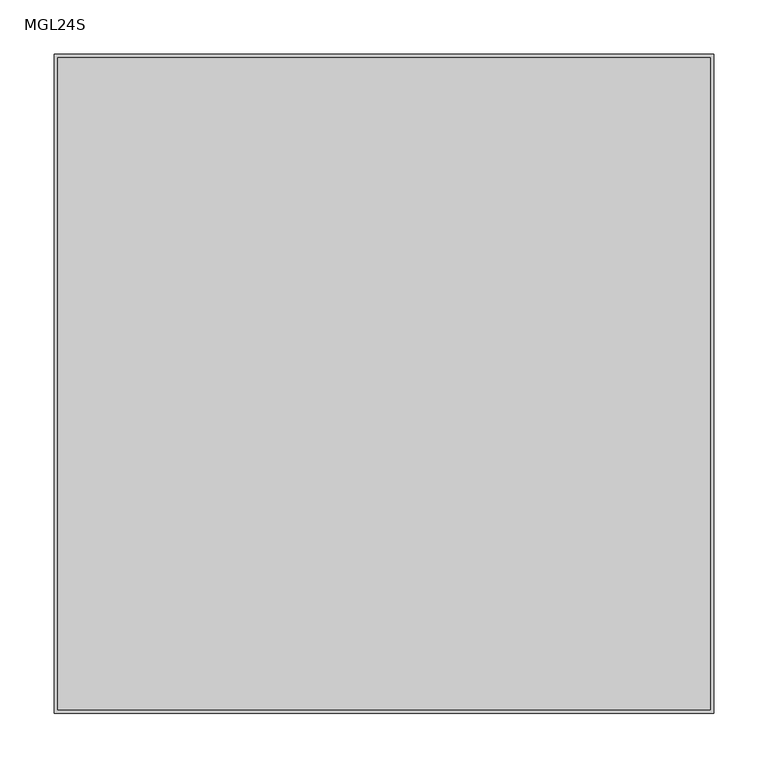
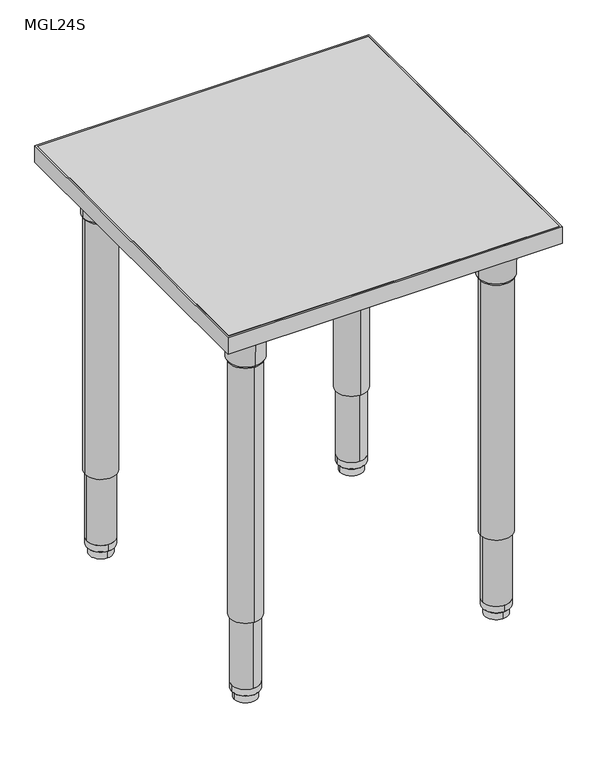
"""IFC4 building model written with IfcOpenShell, lengths in millimetres: furniture geometry, ERG-Mingle-Table-Square : MGL24S."""

from ifc_helpers import new_model, si_unit, point, frame, frame_2d, origin, place, context, project, spatial, polyline, circle_curve, trimmed, segment, composite_curve, outline, extrude, source, transform, mapped, element, save
from ifc_brep_helpers import plane_surface, cylinder_surface, revolved_surface, advanced_brep


def mgl24s_ef257404(model_context):
    return source(origin(), model_context, "Body", "SolidModel", [
        advanced_brep(
        [(198.5646842, -228.6, 650.5933069), (258.6353158, -228.6, 650.5933069), (228.6, -228.6, 650.5933069), (196.456117, -228.6, 654.3580481), (260.743883, -228.6, 654.3580481), (195.5206351, -228.6, 707.7631458), (261.6793649, -228.6, 707.7631458), (192.071083, -228.6, 714.1198315), (265.128917, -228.6, 714.1198315), (192.071083, -228.6, 726.8198315), (265.128917, -228.6, 726.8198315), (228.6, -228.6, 726.8198315)],
        [
            (0, 1, circle_curve(frame((228.6, -228.6, 650.5933069), z_axis=(0.0, 0.0, -1.0), x_axis=(1.0, 0.0, 0.0)), 30.0353158)),
            (1, 2),
            (2, 0),
            (1, 0, circle_curve(frame((228.6, -228.6, 650.5933069), z_axis=(0.0, 0.0, -1.0), x_axis=(1.0, 0.0, 0.0)), 30.0353158)),
            (3, 4, circle_curve(frame((228.6, -228.6, 654.3580481), z_axis=(0.0, 0.0, -1.0), x_axis=(1.0, 0.0, 0.0)), 32.143883)),
            (4, 1),
            (0, 3),
            (4, 3, circle_curve(frame((228.6, -228.6, 654.3580481), z_axis=(0.0, 0.0, -1.0), x_axis=(1.0, 0.0, 0.0)), 32.143883)),
            (5, 6, circle_curve(frame((228.6, -228.6, 707.7631458), z_axis=(0.0, 0.0, -1.0), x_axis=(1.0, 0.0, 0.0)), 33.0793649)),
            (6, 4),
            (3, 5),
            (6, 5, circle_curve(frame((228.6, -228.6, 707.7631458), z_axis=(0.0, 0.0, -1.0), x_axis=(1.0, 0.0, 0.0)), 33.0793649)),
            (7, 8, circle_curve(frame((228.6, -228.6, 714.1198315), z_axis=(0.0, 0.0, -1.0), x_axis=(1.0, 0.0, 0.0)), 36.528917)),
            (8, 6),
            (5, 7),
            (8, 7, circle_curve(frame((228.6, -228.6, 714.1198315), z_axis=(0.0, 0.0, -1.0), x_axis=(1.0, 0.0, 0.0)), 36.528917)),
            (9, 10, circle_curve(frame((228.6, -228.6, 726.8198315), z_axis=(0.0, 0.0, -1.0), x_axis=(1.0, 0.0, 0.0)), 36.528917)),
            (10, 8),
            (7, 9),
            (10, 9, circle_curve(frame((228.6, -228.6, 726.8198315), z_axis=(0.0, 0.0, -1.0), x_axis=(1.0, 0.0, 0.0)), 36.528917)),
            (11, 10),
            (9, 11),
        ],
        [
            plane_surface(frame((228.6, -228.6, 650.5933069), z_axis=(0.0, 0.0, -1.0), x_axis=(1.0, 0.0, 0.0))),
            revolved_surface(polyline([(258.6353158, -228.6, 650.5933069), (260.743883, -228.6, 654.3580481)]), (228.6, -228.6, 726.8198315), (0.0, 0.0, 1.0)),
            revolved_surface(polyline([(260.743883, -228.6, 654.3580481), (261.6793649, -228.6, 707.7631458)]), (228.6, -228.6, 726.8198315), (0.0, 0.0, 1.0)),
            revolved_surface(polyline([(261.6793649, -228.6, 707.7631458), (265.128917, -228.6, 714.1198315)]), (228.6, -228.6, 726.8198315), (0.0, 0.0, 1.0)),
            cylinder_surface(frame((228.6, -228.6, 726.8198315), z_axis=(0.0, 0.0, 1.0), x_axis=(1.0, 0.0, 0.0)), 36.528917),
            plane_surface(frame((228.6, -228.6, 726.8198315), z_axis=(0.0, 0.0, 1.0), x_axis=(1.0, 0.0, 0.0))),
        ],
        [
            (0, [[1, 2, 3]]),
            (0, [[4, -3, -2]]),
            (1, [[5, 6, -1, 7]]),
            (1, [[8, -7, -4, -6]]),
            (2, [[9, 10, -5, 11]]),
            (2, [[12, -11, -8, -10]]),
            (3, [[13, 14, -9, 15]]),
            (3, [[16, -15, -12, -14]]),
            (4, [[17, 18, -13, 19]]),
            (4, [[20, -19, -16, -18]]),
            (5, [[21, -17, 22]]),
            (5, [[-22, -20, -21]]),
        ],
    ),
        extrude(outline(composite_curve([segment(polyline([(274.473768, -146.0223426), (274.473768, -259.7483754)]), True, "CONTINUOUS"), segment(trimmed(circle_curve(frame_2d((258.598768, -259.7483754)), 15.875), [point((274.473768, -259.7483754))], [point((258.598768, -275.6233754))], False, "CARTESIAN"), True, "CONTINUOUS"), segment(polyline([(258.598768, -275.6233754), (144.8864205, -275.6233754)]), True, "CONTINUOUS"), segment(trimmed(circle_curve(frame_2d((144.8864205, -262.9233754)), 12.7), [point((144.8864205, -275.6233754))], [point((132.2491923, -261.6622394))], False, "CARTESIAN"), True, "CONTINUOUS"), segment(trimmed(circle_curve(frame_2d((274.7486077, -275.8830117)), 143.2072406), [point((132.2491923, -261.6622394))], [point((260.5111525, -133.3852622))], False, "CARTESIAN"), True, "CONTINUOUS"), segment(trimmed(circle_curve(frame_2d((261.773768, -146.0223426)), 12.7), [point((260.5111525, -133.3852622))], [point((274.473768, -146.0223426))], False, "CARTESIAN"), True, "CONTINUOUS")], self_intersect=False)), frame((0.0, 0.0, 726.8198315), z_axis=(0.0, 0.0, 1.0), x_axis=(1.0, 0.0, 0.0)), (0.0, 0.0, 1.0), 3.4301685),
        extrude(outline(composite_curve([segment(trimmed(circle_curve(frame_2d((228.6, -228.6)), 28.575), [point((257.175, -228.6))], [point((200.025, -228.6))], False, "CARTESIAN"), True, "CONTINUOUS"), segment(trimmed(circle_curve(frame_2d((228.6, -228.6)), 28.575), [point((200.025, -228.6))], [point((257.175, -228.6))], False, "CARTESIAN"), True, "CONTINUOUS")], self_intersect=False)), frame((0.0, 0.0, 158.3876979), z_axis=(0.0, 0.0, 1.0), x_axis=(1.0, 0.0, 0.0)), (0.0, 0.0, 1.0), 495.4089866),
        extrude(outline(composite_curve([segment(trimmed(circle_curve(frame_2d((228.6, -228.6)), 25.4), [point((254.0, -228.6))], [point((203.2, -228.6))], False, "CARTESIAN"), True, "CONTINUOUS"), segment(trimmed(circle_curve(frame_2d((228.6, -228.6)), 25.4), [point((203.2, -228.6))], [point((254.0, -228.6))], False, "CARTESIAN"), True, "CONTINUOUS")], self_intersect=False)), frame((0.0, 0.0, 28.9580435), z_axis=(0.0, 0.0, 1.0), x_axis=(1.0, 0.0, 0.0)), (0.0, 0.0, 1.0), 176.7049119),
        advanced_brep(
        [(228.6, -203.3649896, 28.9580185), (228.6, -253.8350104, 28.9580185), (228.6, -228.6, 28.9580185), (228.6, -203.500761, 16.3032949), (228.6, -253.699239, 16.3032949), (228.6, -205.0160619, 14.7291007), (228.6, -252.1839381, 14.7291007), (228.6, -207.4591422, 14.7291007), (228.6, -249.7408578, 14.7291007), (228.6, -207.6521336, 0.0), (228.6, -249.5478664, 0.0), (228.6, -228.6, 0.0)],
        [
            (0, 1, circle_curve(frame((228.6, -228.6, 28.9580185), z_axis=(0.0, 0.0, 1.0), x_axis=(0.0, -1.0, 0.0)), 25.2350104)),
            (1, 2),
            (2, 0),
            (1, 0, circle_curve(frame((228.6, -228.6, 28.9580185), z_axis=(0.0, 0.0, 1.0), x_axis=(0.0, -1.0, 0.0)), 25.2350104)),
            (3, 4, circle_curve(frame((228.6, -228.6, 16.3032949), z_axis=(0.0, 0.0, 1.0), x_axis=(0.0, -1.0, 0.0)), 25.099239)),
            (4, 1),
            (0, 3),
            (4, 3, circle_curve(frame((228.6, -228.6, 16.3032949), z_axis=(0.0, 0.0, 1.0), x_axis=(0.0, -1.0, 0.0)), 25.099239)),
            (5, 6, circle_curve(frame((228.6, -228.6, 14.7291007), z_axis=(0.0, 0.0, 1.0), x_axis=(0.0, -1.0, 0.0)), 23.5839381)),
            (6, 4),
            (3, 5),
            (6, 5, circle_curve(frame((228.6, -228.6, 14.7291007), z_axis=(0.0, 0.0, 1.0), x_axis=(0.0, -1.0, 0.0)), 23.5839381)),
            (7, 8, circle_curve(frame((228.6, -228.6, 14.7291007), z_axis=(0.0, 0.0, 1.0), x_axis=(0.0, -1.0, 0.0)), 21.1408578)),
            (8, 6),
            (5, 7),
            (8, 7, circle_curve(frame((228.6, -228.6, 14.7291007), z_axis=(0.0, 0.0, 1.0), x_axis=(0.0, -1.0, 0.0)), 21.1408578)),
            (9, 10, circle_curve(frame((228.6, -228.6, 0.0), z_axis=(0.0, 0.0, 1.0), x_axis=(0.0, -1.0, 0.0)), 20.9478664)),
            (10, 8),
            (7, 9),
            (10, 9, circle_curve(frame((228.6, -228.6, 0.0), z_axis=(0.0, 0.0, 1.0), x_axis=(0.0, -1.0, 0.0)), 20.9478664)),
            (11, 10),
            (9, 11),
        ],
        [
            plane_surface(frame((228.6, -228.6, 28.9580185), z_axis=(0.0, 0.0, 1.0), x_axis=(0.0, -1.0, 0.0))),
            revolved_surface(polyline([(228.6, -253.8350104, 28.9580185), (228.6, -253.699239, 16.3032949)]), (228.6, -228.6, 0.0), (0.0, 0.0, -1.0)),
            revolved_surface(polyline([(228.6, -253.699239, 16.3032949), (228.6, -252.1839381, 14.7291007)]), (228.6, -228.6, 0.0), (0.0, 0.0, -1.0)),
            plane_surface(frame((228.6, -228.6, 14.7291007), z_axis=(0.0, 0.0, -1.0), x_axis=(0.0, -1.0, 0.0))),
            revolved_surface(polyline([(228.6, -249.7408578, 14.7291007), (228.6, -249.5478664, 0.0)]), (228.6, -228.6, 0.0), (0.0, 0.0, -1.0)),
            plane_surface(frame((228.6, -228.6, 0.0), z_axis=(0.0, 0.0, -1.0), x_axis=(0.0, -1.0, 0.0))),
        ],
        [
            (0, [[1, 2, 3]]),
            (0, [[4, -3, -2]]),
            (1, [[5, 6, -1, 7]]),
            (1, [[8, -7, -4, -6]]),
            (2, [[9, 10, -5, 11]]),
            (2, [[12, -11, -8, -10]]),
            (3, [[13, 14, -9, 15]]),
            (3, [[16, -15, -12, -14]]),
            (4, [[17, 18, -13, 19]]),
            (4, [[20, -19, -16, -18]]),
            (5, [[21, -17, 22]]),
            (5, [[-22, -20, -21]]),
        ],
    ),
        advanced_brep(
        [(-228.6, -198.5646842, 650.5933069), (-228.6, -258.6353158, 650.5933069), (-228.6, -228.6, 650.5933069), (-228.6, -196.456117, 654.3580481), (-228.6, -260.743883, 654.3580481), (-228.6, -195.5206351, 707.7631458), (-228.6, -261.6793649, 707.7631458), (-228.6, -192.071083, 714.1198315), (-228.6, -265.128917, 714.1198315), (-228.6, -192.071083, 726.8198315), (-228.6, -265.128917, 726.8198315), (-228.6, -228.6, 726.8198315)],
        [
            (0, 1, circle_curve(frame((-228.6, -228.6, 650.5933069), z_axis=(0.0, 0.0, -1.0), x_axis=(0.0, -1.0, 0.0)), 30.0353158)),
            (1, 2),
            (2, 0),
            (1, 0, circle_curve(frame((-228.6, -228.6, 650.5933069), z_axis=(0.0, 0.0, -1.0), x_axis=(0.0, -1.0, 0.0)), 30.0353158)),
            (3, 4, circle_curve(frame((-228.6, -228.6, 654.3580481), z_axis=(0.0, 0.0, -1.0), x_axis=(0.0, -1.0, 0.0)), 32.143883)),
            (4, 1),
            (0, 3),
            (4, 3, circle_curve(frame((-228.6, -228.6, 654.3580481), z_axis=(0.0, 0.0, -1.0), x_axis=(0.0, -1.0, 0.0)), 32.143883)),
            (5, 6, circle_curve(frame((-228.6, -228.6, 707.7631458), z_axis=(0.0, 0.0, -1.0), x_axis=(0.0, -1.0, 0.0)), 33.0793649)),
            (6, 4),
            (3, 5),
            (6, 5, circle_curve(frame((-228.6, -228.6, 707.7631458), z_axis=(0.0, 0.0, -1.0), x_axis=(0.0, -1.0, 0.0)), 33.0793649)),
            (7, 8, circle_curve(frame((-228.6, -228.6, 714.1198315), z_axis=(0.0, 0.0, -1.0), x_axis=(0.0, -1.0, 0.0)), 36.528917)),
            (8, 6),
            (5, 7),
            (8, 7, circle_curve(frame((-228.6, -228.6, 714.1198315), z_axis=(0.0, 0.0, -1.0), x_axis=(0.0, -1.0, 0.0)), 36.528917)),
            (9, 10, circle_curve(frame((-228.6, -228.6, 726.8198315), z_axis=(0.0, 0.0, -1.0), x_axis=(0.0, -1.0, 0.0)), 36.528917)),
            (10, 8),
            (7, 9),
            (10, 9, circle_curve(frame((-228.6, -228.6, 726.8198315), z_axis=(0.0, 0.0, -1.0), x_axis=(0.0, -1.0, 0.0)), 36.528917)),
            (11, 10),
            (9, 11),
        ],
        [
            plane_surface(frame((-228.6, -228.6, 650.5933069), z_axis=(0.0, 0.0, -1.0), x_axis=(0.0, -1.0, 0.0))),
            revolved_surface(polyline([(-228.6, -258.6353158, 650.5933069), (-228.6, -260.743883, 654.3580481)]), (-228.6, -228.6, 726.8198315), (0.0, 0.0, 1.0)),
            revolved_surface(polyline([(-228.6, -260.743883, 654.3580481), (-228.6, -261.6793649, 707.7631458)]), (-228.6, -228.6, 726.8198315), (0.0, 0.0, 1.0)),
            revolved_surface(polyline([(-228.6, -261.6793649, 707.7631458), (-228.6, -265.128917, 714.1198315)]), (-228.6, -228.6, 726.8198315), (0.0, 0.0, 1.0)),
            cylinder_surface(frame((-228.6, -228.6, 726.8198315), z_axis=(0.0, 0.0, 1.0), x_axis=(0.0, -1.0, 0.0)), 36.528917),
            plane_surface(frame((-228.6, -228.6, 726.8198315), z_axis=(0.0, 0.0, 1.0), x_axis=(0.0, -1.0, 0.0))),
        ],
        [
            (0, [[1, 2, 3]]),
            (0, [[4, -3, -2]]),
            (1, [[5, 6, -1, 7]]),
            (1, [[8, -7, -4, -6]]),
            (2, [[9, 10, -5, 11]]),
            (2, [[12, -11, -8, -10]]),
            (3, [[13, 14, -9, 15]]),
            (3, [[16, -15, -12, -14]]),
            (4, [[17, 18, -13, 19]]),
            (4, [[20, -19, -16, -18]]),
            (5, [[21, -17, 22]]),
            (5, [[-22, -20, -21]]),
        ],
    ),
        extrude(outline(composite_curve([segment(polyline([(-146.0223426, -274.473768), (-259.7483754, -274.473768)]), True, "CONTINUOUS"), segment(trimmed(circle_curve(frame_2d((-259.7483754, -258.598768)), 15.875), [point((-259.7483754, -274.473768))], [point((-275.6233754, -258.598768))], False, "CARTESIAN"), True, "CONTINUOUS"), segment(polyline([(-275.6233754, -258.598768), (-275.6233754, -144.8864205)]), True, "CONTINUOUS"), segment(trimmed(circle_curve(frame_2d((-262.9233754, -144.8864205)), 12.7), [point((-275.6233754, -144.8864205))], [point((-261.6622394, -132.2491923))], False, "CARTESIAN"), True, "CONTINUOUS"), segment(trimmed(circle_curve(frame_2d((-275.8830117, -274.7486077)), 143.2072406), [point((-261.6622394, -132.2491923))], [point((-133.3852622, -260.5111525))], False, "CARTESIAN"), True, "CONTINUOUS"), segment(trimmed(circle_curve(frame_2d((-146.0223426, -261.773768)), 12.7), [point((-133.3852622, -260.5111525))], [point((-146.0223426, -274.473768))], False, "CARTESIAN"), True, "CONTINUOUS")], self_intersect=False)), frame((0.0, 0.0, 726.8198315), z_axis=(0.0, 0.0, 1.0), x_axis=(1.0, 0.0, 0.0)), (0.0, 0.0, 1.0), 3.4301685),
        extrude(outline(composite_curve([segment(trimmed(circle_curve(frame_2d((-228.6, -228.6)), 28.575), [point((-228.6, -257.175))], [point((-228.6, -200.025))], False, "CARTESIAN"), True, "CONTINUOUS"), segment(trimmed(circle_curve(frame_2d((-228.6, -228.6)), 28.575), [point((-228.6, -200.025))], [point((-228.6, -257.175))], False, "CARTESIAN"), True, "CONTINUOUS")], self_intersect=False)), frame((0.0, 0.0, 158.3876979), z_axis=(0.0, 0.0, 1.0), x_axis=(1.0, 0.0, 0.0)), (0.0, 0.0, 1.0), 495.4089866),
        extrude(outline(composite_curve([segment(trimmed(circle_curve(frame_2d((-228.6, -228.6)), 25.4), [point((-228.6, -254.0))], [point((-228.6, -203.2))], False, "CARTESIAN"), True, "CONTINUOUS"), segment(trimmed(circle_curve(frame_2d((-228.6, -228.6)), 25.4), [point((-228.6, -203.2))], [point((-228.6, -254.0))], False, "CARTESIAN"), True, "CONTINUOUS")], self_intersect=False)), frame((0.0, 0.0, 28.9580435), z_axis=(0.0, 0.0, 1.0), x_axis=(1.0, 0.0, 0.0)), (0.0, 0.0, 1.0), 176.7049119),
        advanced_brep(
        [(-203.3649896, -228.6, 28.9580185), (-253.8350104, -228.6, 28.9580185), (-228.6, -228.6, 28.9580185), (-203.500761, -228.6, 16.3032949), (-253.699239, -228.6, 16.3032949), (-205.0160619, -228.6, 14.7291007), (-252.1839381, -228.6, 14.7291007), (-207.4591422, -228.6, 14.7291007), (-249.7408578, -228.6, 14.7291007), (-207.6521336, -228.6, 0.0), (-249.5478664, -228.6, 0.0), (-228.6, -228.6, 0.0)],
        [
            (0, 1, circle_curve(frame((-228.6, -228.6, 28.9580185), z_axis=(0.0, 0.0, 1.0), x_axis=(-1.0, 0.0, 0.0)), 25.2350104)),
            (1, 2),
            (2, 0),
            (1, 0, circle_curve(frame((-228.6, -228.6, 28.9580185), z_axis=(0.0, 0.0, 1.0), x_axis=(-1.0, 0.0, 0.0)), 25.2350104)),
            (3, 4, circle_curve(frame((-228.6, -228.6, 16.3032949), z_axis=(0.0, 0.0, 1.0), x_axis=(-1.0, 0.0, 0.0)), 25.099239)),
            (4, 1),
            (0, 3),
            (4, 3, circle_curve(frame((-228.6, -228.6, 16.3032949), z_axis=(0.0, 0.0, 1.0), x_axis=(-1.0, 0.0, 0.0)), 25.099239)),
            (5, 6, circle_curve(frame((-228.6, -228.6, 14.7291007), z_axis=(0.0, 0.0, 1.0), x_axis=(-1.0, 0.0, 0.0)), 23.5839381)),
            (6, 4),
            (3, 5),
            (6, 5, circle_curve(frame((-228.6, -228.6, 14.7291007), z_axis=(0.0, 0.0, 1.0), x_axis=(-1.0, 0.0, 0.0)), 23.5839381)),
            (7, 8, circle_curve(frame((-228.6, -228.6, 14.7291007), z_axis=(0.0, 0.0, 1.0), x_axis=(-1.0, 0.0, 0.0)), 21.1408578)),
            (8, 6),
            (5, 7),
            (8, 7, circle_curve(frame((-228.6, -228.6, 14.7291007), z_axis=(0.0, 0.0, 1.0), x_axis=(-1.0, 0.0, 0.0)), 21.1408578)),
            (9, 10, circle_curve(frame((-228.6, -228.6, 0.0), z_axis=(0.0, 0.0, 1.0), x_axis=(-1.0, 0.0, 0.0)), 20.9478664)),
            (10, 8),
            (7, 9),
            (10, 9, circle_curve(frame((-228.6, -228.6, 0.0), z_axis=(0.0, 0.0, 1.0), x_axis=(-1.0, 0.0, 0.0)), 20.9478664)),
            (11, 10),
            (9, 11),
        ],
        [
            plane_surface(frame((-228.6, -228.6, 28.9580185), z_axis=(0.0, 0.0, 1.0), x_axis=(-1.0, 0.0, 0.0))),
            revolved_surface(polyline([(-253.8350104, -228.6, 28.9580185), (-253.699239, -228.6, 16.3032949)]), (-228.6, -228.6, 0.0), (0.0, 0.0, -1.0)),
            revolved_surface(polyline([(-253.699239, -228.6, 16.3032949), (-252.1839381, -228.6, 14.7291007)]), (-228.6, -228.6, 0.0), (0.0, 0.0, -1.0)),
            plane_surface(frame((-228.6, -228.6, 14.7291007), z_axis=(0.0, 0.0, -1.0), x_axis=(-1.0, 0.0, 0.0))),
            revolved_surface(polyline([(-249.7408578, -228.6, 14.7291007), (-249.5478664, -228.6, 0.0)]), (-228.6, -228.6, 0.0), (0.0, 0.0, -1.0)),
            plane_surface(frame((-228.6, -228.6, 0.0), z_axis=(0.0, 0.0, -1.0), x_axis=(-1.0, 0.0, 0.0))),
        ],
        [
            (0, [[1, 2, 3]]),
            (0, [[4, -3, -2]]),
            (1, [[5, 6, -1, 7]]),
            (1, [[8, -7, -4, -6]]),
            (2, [[9, 10, -5, 11]]),
            (2, [[12, -11, -8, -10]]),
            (3, [[13, 14, -9, 15]]),
            (3, [[16, -15, -12, -14]]),
            (4, [[17, 18, -13, 19]]),
            (4, [[20, -19, -16, -18]]),
            (5, [[21, -17, 22]]),
            (5, [[-22, -20, -21]]),
        ],
    ),
        advanced_brep(
        [(228.6, 198.5646842, 650.5933069), (228.6, 258.6353158, 650.5933069), (228.6, 228.6, 650.5933069), (228.6, 196.456117, 654.3580481), (228.6, 260.743883, 654.3580481), (228.6, 195.5206351, 707.7631458), (228.6, 261.6793649, 707.7631458), (228.6, 192.071083, 714.1198315), (228.6, 265.128917, 714.1198315), (228.6, 192.071083, 726.8198315), (228.6, 265.128917, 726.8198315), (228.6, 228.6, 726.8198315)],
        [
            (0, 1, circle_curve(frame((228.6, 228.6, 650.5933069), z_axis=(0.0, 0.0, -1.0), x_axis=(0.0, 1.0, 0.0)), 30.0353158)),
            (1, 2),
            (2, 0),
            (1, 0, circle_curve(frame((228.6, 228.6, 650.5933069), z_axis=(0.0, 0.0, -1.0), x_axis=(0.0, 1.0, 0.0)), 30.0353158)),
            (3, 4, circle_curve(frame((228.6, 228.6, 654.3580481), z_axis=(0.0, 0.0, -1.0), x_axis=(0.0, 1.0, 0.0)), 32.143883)),
            (4, 1),
            (0, 3),
            (4, 3, circle_curve(frame((228.6, 228.6, 654.3580481), z_axis=(0.0, 0.0, -1.0), x_axis=(0.0, 1.0, 0.0)), 32.143883)),
            (5, 6, circle_curve(frame((228.6, 228.6, 707.7631458), z_axis=(0.0, 0.0, -1.0), x_axis=(0.0, 1.0, 0.0)), 33.0793649)),
            (6, 4),
            (3, 5),
            (6, 5, circle_curve(frame((228.6, 228.6, 707.7631458), z_axis=(0.0, 0.0, -1.0), x_axis=(0.0, 1.0, 0.0)), 33.0793649)),
            (7, 8, circle_curve(frame((228.6, 228.6, 714.1198315), z_axis=(0.0, 0.0, -1.0), x_axis=(0.0, 1.0, 0.0)), 36.528917)),
            (8, 6),
            (5, 7),
            (8, 7, circle_curve(frame((228.6, 228.6, 714.1198315), z_axis=(0.0, 0.0, -1.0), x_axis=(0.0, 1.0, 0.0)), 36.528917)),
            (9, 10, circle_curve(frame((228.6, 228.6, 726.8198315), z_axis=(0.0, 0.0, -1.0), x_axis=(0.0, 1.0, 0.0)), 36.528917)),
            (10, 8),
            (7, 9),
            (10, 9, circle_curve(frame((228.6, 228.6, 726.8198315), z_axis=(0.0, 0.0, -1.0), x_axis=(0.0, 1.0, 0.0)), 36.528917)),
            (11, 10),
            (9, 11),
        ],
        [
            plane_surface(frame((228.6, 228.6, 650.5933069), z_axis=(0.0, 0.0, -1.0), x_axis=(0.0, 1.0, 0.0))),
            revolved_surface(polyline([(228.6, 258.6353158, 650.5933069), (228.6, 260.743883, 654.3580481)]), (228.6, 228.6, 726.8198315), (0.0, 0.0, 1.0)),
            revolved_surface(polyline([(228.6, 260.743883, 654.3580481), (228.6, 261.6793649, 707.7631458)]), (228.6, 228.6, 726.8198315), (0.0, 0.0, 1.0)),
            revolved_surface(polyline([(228.6, 261.6793649, 707.7631458), (228.6, 265.128917, 714.1198315)]), (228.6, 228.6, 726.8198315), (0.0, 0.0, 1.0)),
            cylinder_surface(frame((228.6, 228.6, 726.8198315), z_axis=(0.0, 0.0, 1.0), x_axis=(0.0, 1.0, 0.0)), 36.528917),
            plane_surface(frame((228.6, 228.6, 726.8198315), z_axis=(0.0, 0.0, 1.0), x_axis=(0.0, 1.0, 0.0))),
        ],
        [
            (0, [[1, 2, 3]]),
            (0, [[4, -3, -2]]),
            (1, [[5, 6, -1, 7]]),
            (1, [[8, -7, -4, -6]]),
            (2, [[9, 10, -5, 11]]),
            (2, [[12, -11, -8, -10]]),
            (3, [[13, 14, -9, 15]]),
            (3, [[16, -15, -12, -14]]),
            (4, [[17, 18, -13, 19]]),
            (4, [[20, -19, -16, -18]]),
            (5, [[21, -17, 22]]),
            (5, [[-22, -20, -21]]),
        ],
    ),
        extrude(outline(composite_curve([segment(polyline([(146.0223426, 274.473768), (259.7483754, 274.473768)]), True, "CONTINUOUS"), segment(trimmed(circle_curve(frame_2d((259.7483754, 258.598768)), 15.875), [point((259.7483754, 274.473768))], [point((275.6233754, 258.598768))], False, "CARTESIAN"), True, "CONTINUOUS"), segment(polyline([(275.6233754, 258.598768), (275.6233754, 144.8864205)]), True, "CONTINUOUS"), segment(trimmed(circle_curve(frame_2d((262.9233754, 144.8864205)), 12.7), [point((275.6233754, 144.8864205))], [point((261.6622394, 132.2491923))], False, "CARTESIAN"), True, "CONTINUOUS"), segment(trimmed(circle_curve(frame_2d((275.8830117, 274.7486077)), 143.2072406), [point((261.6622394, 132.2491923))], [point((133.3852622, 260.5111525))], False, "CARTESIAN"), True, "CONTINUOUS"), segment(trimmed(circle_curve(frame_2d((146.0223426, 261.773768)), 12.7), [point((133.3852622, 260.5111525))], [point((146.0223426, 274.473768))], False, "CARTESIAN"), True, "CONTINUOUS")], self_intersect=False)), frame((0.0, 0.0, 726.8198315), z_axis=(0.0, 0.0, 1.0), x_axis=(1.0, 0.0, 0.0)), (0.0, 0.0, 1.0), 3.4301685),
        extrude(outline(composite_curve([segment(trimmed(circle_curve(frame_2d((228.6, 228.6)), 28.575), [point((228.6, 257.175))], [point((228.6, 200.025))], False, "CARTESIAN"), True, "CONTINUOUS"), segment(trimmed(circle_curve(frame_2d((228.6, 228.6)), 28.575), [point((228.6, 200.025))], [point((228.6, 257.175))], False, "CARTESIAN"), True, "CONTINUOUS")], self_intersect=False)), frame((0.0, 0.0, 158.3876979), z_axis=(0.0, 0.0, 1.0), x_axis=(1.0, 0.0, 0.0)), (0.0, 0.0, 1.0), 495.4089866),
        extrude(outline(composite_curve([segment(trimmed(circle_curve(frame_2d((228.6, 228.6)), 25.4), [point((228.6, 254.0))], [point((228.6, 203.2))], False, "CARTESIAN"), True, "CONTINUOUS"), segment(trimmed(circle_curve(frame_2d((228.6, 228.6)), 25.4), [point((228.6, 203.2))], [point((228.6, 254.0))], False, "CARTESIAN"), True, "CONTINUOUS")], self_intersect=False)), frame((0.0, 0.0, 28.9580435), z_axis=(0.0, 0.0, 1.0), x_axis=(1.0, 0.0, 0.0)), (0.0, 0.0, 1.0), 176.7049119),
        advanced_brep(
        [(203.3649896, 228.6, 28.9580185), (253.8350104, 228.6, 28.9580185), (228.6, 228.6, 28.9580185), (203.500761, 228.6, 16.3032949), (253.699239, 228.6, 16.3032949), (205.0160619, 228.6, 14.7291007), (252.1839381, 228.6, 14.7291007), (207.4591422, 228.6, 14.7291007), (249.7408578, 228.6, 14.7291007), (207.6521336, 228.6, 0.0), (249.5478664, 228.6, 0.0), (228.6, 228.6, 0.0)],
        [
            (0, 1, circle_curve(frame((228.6, 228.6, 28.9580185), z_axis=(0.0, 0.0, 1.0), x_axis=(1.0, 0.0, 0.0)), 25.2350104)),
            (1, 2),
            (2, 0),
            (1, 0, circle_curve(frame((228.6, 228.6, 28.9580185), z_axis=(0.0, 0.0, 1.0), x_axis=(1.0, 0.0, 0.0)), 25.2350104)),
            (3, 4, circle_curve(frame((228.6, 228.6, 16.3032949), z_axis=(0.0, 0.0, 1.0), x_axis=(1.0, 0.0, 0.0)), 25.099239)),
            (4, 1),
            (0, 3),
            (4, 3, circle_curve(frame((228.6, 228.6, 16.3032949), z_axis=(0.0, 0.0, 1.0), x_axis=(1.0, 0.0, 0.0)), 25.099239)),
            (5, 6, circle_curve(frame((228.6, 228.6, 14.7291007), z_axis=(0.0, 0.0, 1.0), x_axis=(1.0, 0.0, 0.0)), 23.5839381)),
            (6, 4),
            (3, 5),
            (6, 5, circle_curve(frame((228.6, 228.6, 14.7291007), z_axis=(0.0, 0.0, 1.0), x_axis=(1.0, 0.0, 0.0)), 23.5839381)),
            (7, 8, circle_curve(frame((228.6, 228.6, 14.7291007), z_axis=(0.0, 0.0, 1.0), x_axis=(1.0, 0.0, 0.0)), 21.1408578)),
            (8, 6),
            (5, 7),
            (8, 7, circle_curve(frame((228.6, 228.6, 14.7291007), z_axis=(0.0, 0.0, 1.0), x_axis=(1.0, 0.0, 0.0)), 21.1408578)),
            (9, 10, circle_curve(frame((228.6, 228.6, 0.0), z_axis=(0.0, 0.0, 1.0), x_axis=(1.0, 0.0, 0.0)), 20.9478664)),
            (10, 8),
            (7, 9),
            (10, 9, circle_curve(frame((228.6, 228.6, 0.0), z_axis=(0.0, 0.0, 1.0), x_axis=(1.0, 0.0, 0.0)), 20.9478664)),
            (11, 10),
            (9, 11),
        ],
        [
            plane_surface(frame((228.6, 228.6, 28.9580185), z_axis=(0.0, 0.0, 1.0), x_axis=(1.0, 0.0, 0.0))),
            revolved_surface(polyline([(253.8350104, 228.6, 28.9580185), (253.699239, 228.6, 16.3032949)]), (228.6, 228.6, 0.0), (0.0, 0.0, -1.0)),
            revolved_surface(polyline([(253.699239, 228.6, 16.3032949), (252.1839381, 228.6, 14.7291007)]), (228.6, 228.6, 0.0), (0.0, 0.0, -1.0)),
            plane_surface(frame((228.6, 228.6, 14.7291007), z_axis=(0.0, 0.0, -1.0), x_axis=(1.0, 0.0, 0.0))),
            revolved_surface(polyline([(249.7408578, 228.6, 14.7291007), (249.5478664, 228.6, 0.0)]), (228.6, 228.6, 0.0), (0.0, 0.0, -1.0)),
            plane_surface(frame((228.6, 228.6, 0.0), z_axis=(0.0, 0.0, -1.0), x_axis=(1.0, 0.0, 0.0))),
        ],
        [
            (0, [[1, 2, 3]]),
            (0, [[4, -3, -2]]),
            (1, [[5, 6, -1, 7]]),
            (1, [[8, -7, -4, -6]]),
            (2, [[9, 10, -5, 11]]),
            (2, [[12, -11, -8, -10]]),
            (3, [[13, 14, -9, 15]]),
            (3, [[16, -15, -12, -14]]),
            (4, [[17, 18, -13, 19]]),
            (4, [[20, -19, -16, -18]]),
            (5, [[21, -17, 22]]),
            (5, [[-22, -20, -21]]),
        ],
    ),
        advanced_brep(
        [(-198.5646842, 228.6, 650.5933069), (-258.6353158, 228.6, 650.5933069), (-228.6, 228.6, 650.5933069), (-196.456117, 228.6, 654.3580481), (-260.743883, 228.6, 654.3580481), (-195.5206351, 228.6, 707.7631458), (-261.6793649, 228.6, 707.7631458), (-192.071083, 228.6, 714.1198315), (-265.128917, 228.6, 714.1198315), (-192.071083, 228.6, 726.8198315), (-265.128917, 228.6, 726.8198315), (-228.6, 228.6, 726.8198315)],
        [
            (0, 1, circle_curve(frame((-228.6, 228.6, 650.5933069), z_axis=(0.0, 0.0, -1.0), x_axis=(-1.0, 0.0, 0.0)), 30.0353158)),
            (1, 2),
            (2, 0),
            (1, 0, circle_curve(frame((-228.6, 228.6, 650.5933069), z_axis=(0.0, 0.0, -1.0), x_axis=(-1.0, 0.0, 0.0)), 30.0353158)),
            (3, 4, circle_curve(frame((-228.6, 228.6, 654.3580481), z_axis=(0.0, 0.0, -1.0), x_axis=(-1.0, 0.0, 0.0)), 32.143883)),
            (4, 1),
            (0, 3),
            (4, 3, circle_curve(frame((-228.6, 228.6, 654.3580481), z_axis=(0.0, 0.0, -1.0), x_axis=(-1.0, 0.0, 0.0)), 32.143883)),
            (5, 6, circle_curve(frame((-228.6, 228.6, 707.7631458), z_axis=(0.0, 0.0, -1.0), x_axis=(-1.0, 0.0, 0.0)), 33.0793649)),
            (6, 4),
            (3, 5),
            (6, 5, circle_curve(frame((-228.6, 228.6, 707.7631458), z_axis=(0.0, 0.0, -1.0), x_axis=(-1.0, 0.0, 0.0)), 33.0793649)),
            (7, 8, circle_curve(frame((-228.6, 228.6, 714.1198315), z_axis=(0.0, 0.0, -1.0), x_axis=(-1.0, 0.0, 0.0)), 36.528917)),
            (8, 6),
            (5, 7),
            (8, 7, circle_curve(frame((-228.6, 228.6, 714.1198315), z_axis=(0.0, 0.0, -1.0), x_axis=(-1.0, 0.0, 0.0)), 36.528917)),
            (9, 10, circle_curve(frame((-228.6, 228.6, 726.8198315), z_axis=(0.0, 0.0, -1.0), x_axis=(-1.0, 0.0, 0.0)), 36.528917)),
            (10, 8),
            (7, 9),
            (10, 9, circle_curve(frame((-228.6, 228.6, 726.8198315), z_axis=(0.0, 0.0, -1.0), x_axis=(-1.0, 0.0, 0.0)), 36.528917)),
            (11, 10),
            (9, 11),
        ],
        [
            plane_surface(frame((-228.6, 228.6, 650.5933069), z_axis=(0.0, 0.0, -1.0), x_axis=(-1.0, 0.0, 0.0))),
            revolved_surface(polyline([(-258.6353158, 228.6, 650.5933069), (-260.743883, 228.6, 654.3580481)]), (-228.6, 228.6, 726.8198315), (0.0, 0.0, 1.0)),
            revolved_surface(polyline([(-260.743883, 228.6, 654.3580481), (-261.6793649, 228.6, 707.7631458)]), (-228.6, 228.6, 726.8198315), (0.0, 0.0, 1.0)),
            revolved_surface(polyline([(-261.6793649, 228.6, 707.7631458), (-265.128917, 228.6, 714.1198315)]), (-228.6, 228.6, 726.8198315), (0.0, 0.0, 1.0)),
            cylinder_surface(frame((-228.6, 228.6, 726.8198315), z_axis=(0.0, 0.0, 1.0), x_axis=(-1.0, 0.0, 0.0)), 36.528917),
            plane_surface(frame((-228.6, 228.6, 726.8198315), z_axis=(0.0, 0.0, 1.0), x_axis=(-1.0, 0.0, 0.0))),
        ],
        [
            (0, [[1, 2, 3]]),
            (0, [[4, -3, -2]]),
            (1, [[5, 6, -1, 7]]),
            (1, [[8, -7, -4, -6]]),
            (2, [[9, 10, -5, 11]]),
            (2, [[12, -11, -8, -10]]),
            (3, [[13, 14, -9, 15]]),
            (3, [[16, -15, -12, -14]]),
            (4, [[17, 18, -13, 19]]),
            (4, [[20, -19, -16, -18]]),
            (5, [[21, -17, 22]]),
            (5, [[-22, -20, -21]]),
        ],
    ),
        extrude(outline(composite_curve([segment(polyline([(-274.473768, 146.0223426), (-274.473768, 259.7483754)]), True, "CONTINUOUS"), segment(trimmed(circle_curve(frame_2d((-258.598768, 259.7483754)), 15.875), [point((-274.473768, 259.7483754))], [point((-258.598768, 275.6233754))], False, "CARTESIAN"), True, "CONTINUOUS"), segment(polyline([(-258.598768, 275.6233754), (-144.8864205, 275.6233754)]), True, "CONTINUOUS"), segment(trimmed(circle_curve(frame_2d((-144.8864205, 262.9233754)), 12.7), [point((-144.8864205, 275.6233754))], [point((-132.2491923, 261.6622394))], False, "CARTESIAN"), True, "CONTINUOUS"), segment(trimmed(circle_curve(frame_2d((-274.7486077, 275.8830117)), 143.2072406), [point((-132.2491923, 261.6622394))], [point((-260.5111525, 133.3852622))], False, "CARTESIAN"), True, "CONTINUOUS"), segment(trimmed(circle_curve(frame_2d((-261.773768, 146.0223426)), 12.7), [point((-260.5111525, 133.3852622))], [point((-274.473768, 146.0223426))], False, "CARTESIAN"), True, "CONTINUOUS")], self_intersect=False)), frame((0.0, 0.0, 726.8198315), z_axis=(0.0, 0.0, 1.0), x_axis=(1.0, 0.0, 0.0)), (0.0, 0.0, 1.0), 3.4301685),
        extrude(outline(composite_curve([segment(trimmed(circle_curve(frame_2d((-228.6, 228.6)), 28.575), [point((-257.175, 228.6))], [point((-200.025, 228.6))], False, "CARTESIAN"), True, "CONTINUOUS"), segment(trimmed(circle_curve(frame_2d((-228.6, 228.6)), 28.575), [point((-200.025, 228.6))], [point((-257.175, 228.6))], False, "CARTESIAN"), True, "CONTINUOUS")], self_intersect=False)), frame((0.0, 0.0, 158.3876979), z_axis=(0.0, 0.0, 1.0), x_axis=(1.0, 0.0, 0.0)), (0.0, 0.0, 1.0), 495.4089866),
        extrude(outline(composite_curve([segment(trimmed(circle_curve(frame_2d((-228.6, 228.6)), 25.4), [point((-254.0, 228.6))], [point((-203.2, 228.6))], False, "CARTESIAN"), True, "CONTINUOUS"), segment(trimmed(circle_curve(frame_2d((-228.6, 228.6)), 25.4), [point((-203.2, 228.6))], [point((-254.0, 228.6))], False, "CARTESIAN"), True, "CONTINUOUS")], self_intersect=False)), frame((0.0, 0.0, 28.9580435), z_axis=(0.0, 0.0, 1.0), x_axis=(1.0, 0.0, 0.0)), (0.0, 0.0, 1.0), 176.7049119),
        advanced_brep(
        [(-228.6, 203.3649896, 28.9580185), (-228.6, 253.8350104, 28.9580185), (-228.6, 228.6, 28.9580185), (-228.6, 203.500761, 16.3032949), (-228.6, 253.699239, 16.3032949), (-228.6, 205.0160619, 14.7291007), (-228.6, 252.1839381, 14.7291007), (-228.6, 207.4591422, 14.7291007), (-228.6, 249.7408578, 14.7291007), (-228.6, 207.6521336, 0.0), (-228.6, 249.5478664, 0.0), (-228.6, 228.6, 0.0)],
        [
            (0, 1, circle_curve(frame((-228.6, 228.6, 28.9580185), z_axis=(0.0, 0.0, 1.0), x_axis=(0.0, 1.0, 0.0)), 25.2350104)),
            (1, 2),
            (2, 0),
            (1, 0, circle_curve(frame((-228.6, 228.6, 28.9580185), z_axis=(0.0, 0.0, 1.0), x_axis=(0.0, 1.0, 0.0)), 25.2350104)),
            (3, 4, circle_curve(frame((-228.6, 228.6, 16.3032949), z_axis=(0.0, 0.0, 1.0), x_axis=(0.0, 1.0, 0.0)), 25.099239)),
            (4, 1),
            (0, 3),
            (4, 3, circle_curve(frame((-228.6, 228.6, 16.3032949), z_axis=(0.0, 0.0, 1.0), x_axis=(0.0, 1.0, 0.0)), 25.099239)),
            (5, 6, circle_curve(frame((-228.6, 228.6, 14.7291007), z_axis=(0.0, 0.0, 1.0), x_axis=(0.0, 1.0, 0.0)), 23.5839381)),
            (6, 4),
            (3, 5),
            (6, 5, circle_curve(frame((-228.6, 228.6, 14.7291007), z_axis=(0.0, 0.0, 1.0), x_axis=(0.0, 1.0, 0.0)), 23.5839381)),
            (7, 8, circle_curve(frame((-228.6, 228.6, 14.7291007), z_axis=(0.0, 0.0, 1.0), x_axis=(0.0, 1.0, 0.0)), 21.1408578)),
            (8, 6),
            (5, 7),
            (8, 7, circle_curve(frame((-228.6, 228.6, 14.7291007), z_axis=(0.0, 0.0, 1.0), x_axis=(0.0, 1.0, 0.0)), 21.1408578)),
            (9, 10, circle_curve(frame((-228.6, 228.6, 0.0), z_axis=(0.0, 0.0, 1.0), x_axis=(0.0, 1.0, 0.0)), 20.9478664)),
            (10, 8),
            (7, 9),
            (10, 9, circle_curve(frame((-228.6, 228.6, 0.0), z_axis=(0.0, 0.0, 1.0), x_axis=(0.0, 1.0, 0.0)), 20.9478664)),
            (11, 10),
            (9, 11),
        ],
        [
            plane_surface(frame((-228.6, 228.6, 28.9580185), z_axis=(0.0, 0.0, 1.0), x_axis=(0.0, 1.0, 0.0))),
            revolved_surface(polyline([(-228.6, 253.8350104, 28.9580185), (-228.6, 253.699239, 16.3032949)]), (-228.6, 228.6, 0.0), (0.0, 0.0, -1.0)),
            revolved_surface(polyline([(-228.6, 253.699239, 16.3032949), (-228.6, 252.1839381, 14.7291007)]), (-228.6, 228.6, 0.0), (0.0, 0.0, -1.0)),
            plane_surface(frame((-228.6, 228.6, 14.7291007), z_axis=(0.0, 0.0, -1.0), x_axis=(0.0, 1.0, 0.0))),
            revolved_surface(polyline([(-228.6, 249.7408578, 14.7291007), (-228.6, 249.5478664, 0.0)]), (-228.6, 228.6, 0.0), (0.0, 0.0, -1.0)),
            plane_surface(frame((-228.6, 228.6, 0.0), z_axis=(0.0, 0.0, -1.0), x_axis=(0.0, 1.0, 0.0))),
        ],
        [
            (0, [[1, 2, 3]]),
            (0, [[4, -3, -2]]),
            (1, [[5, 6, -1, 7]]),
            (1, [[8, -7, -4, -6]]),
            (2, [[9, 10, -5, 11]]),
            (2, [[12, -11, -8, -10]]),
            (3, [[13, 14, -9, 15]]),
            (3, [[16, -15, -12, -14]]),
            (4, [[17, 18, -13, 19]]),
            (4, [[20, -19, -16, -18]]),
            (5, [[21, -17, 22]]),
            (5, [[-22, -20, -21]]),
        ],
    ),
        extrude(outline(polyline([(-301.625, 301.625), (301.625, 301.625), (301.625, -301.625), (-301.625, -301.625), (-301.625, 301.625)])), frame((0.0, 0.0, 730.25), z_axis=(0.0, 0.0, 1.0), x_axis=(1.0, 0.0, 0.0)), (0.0, 0.0, 1.0), 31.75),
        extrude(outline(polyline([(304.8, -304.8), (-304.8, -304.8), (-304.8, 304.8), (304.8, 304.8), (304.8, -304.8)]), holes=[polyline([(301.625, 301.625), (-301.625, 301.625), (-301.625, -301.625), (301.625, -301.625), (301.625, 301.625)])]), frame((0.0, 0.0, 730.25), z_axis=(0.0, 0.0, 1.0), x_axis=(1.0, 0.0, 0.0)), (0.0, 0.0, 1.0), 31.75),
    ])


if __name__ == "__main__":
    model = new_model("IFC4")
    model_context = context("Model", 3, world=origin())
    ifc_project = project(units=[si_unit("LENGTHUNIT", "METRE", prefix="MILLI")], contexts=[model_context])
    site = spatial("IfcSite", under=ifc_project)
    building = spatial("IfcBuilding", under=site)
    placement = place(None, origin())
    mgl24s_shape = mgl24s_ef257404(model_context)
    element("IfcFurniture", 1, ObjectType="ERG-Mingle-Table-Square : MGL24S", at=placement, inside=building, context=model_context, shape_type="MappedRepresentation", body=[
        mapped(mgl24s_shape, transform((0.0, 0.0, 0.0), x_axis=(1.0, 0.0, 0.0), y_axis=(0.0, 1.0, 0.0), z_axis=(0.0, 0.0, 1.0))),
    ])
    save(model, "model.ifc")
